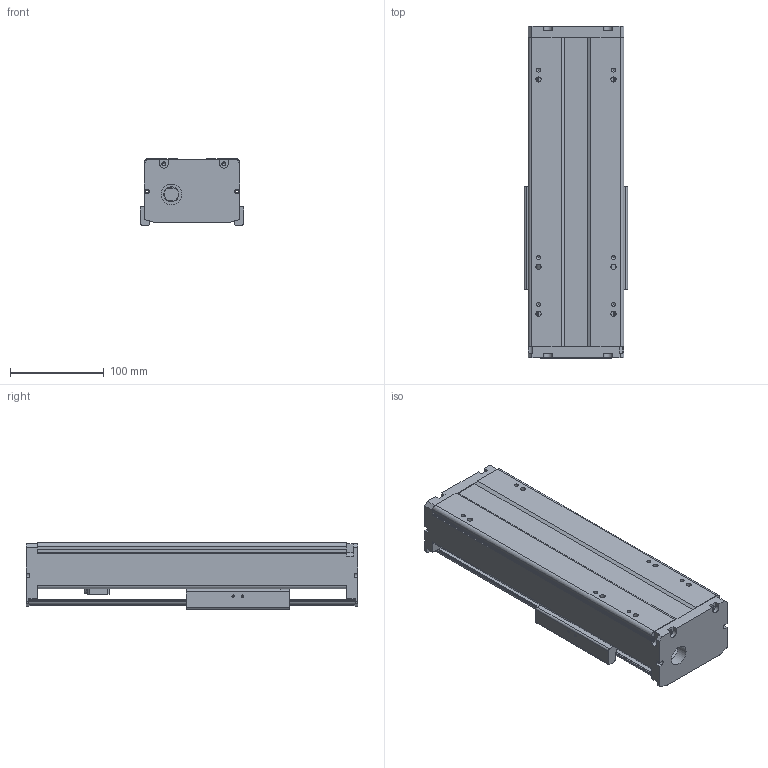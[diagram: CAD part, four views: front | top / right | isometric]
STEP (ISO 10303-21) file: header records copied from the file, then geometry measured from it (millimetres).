
FILE_DESCRIPTION(/* description */ (''),/* implementation_level */ '2;1');
FILE_NAME(/* name */ 'TKA100-100A1F0_asm1.stp',/* time_stamp */ '2017-02-20T14:55:14+08:00',/* author */ (''),/* organization */ (''),/* preprocessor_version */ 'ST-DEVELOPER v15',/* originating_system */ 'SIEMENS PLM Software NX 8.5',/* authorisation */ '');
FILE_SCHEMA (('AUTOMOTIVE_DESIGN { 1 0 10303 214 3 1 1 1 }'));
Length unit declared in the file: millimetre
Products named in the file (3): 200-02; 200-01; TKA100-100A1F0_asm1_stp
Assembly tree (2 placements, depth 2):
  TKA100-100A1F0_asm1_stp
    200-01
    200-02
Bounding box: 110 x 354 x 71 mm (x, y, z)
Volume: 981638.8 mm3; surface area: 309229.4 mm2
Topology: 2 solids, 8 shells, 665 faces, 1775 edges, 1158 vertices
Faces by surface type: cylinder 255, plane 253, cone 104, torus 27, bspline 26
Full cylindrical faces by diameter (mm): 2.5 x6, 2.6 x8, 3.3 x8, 3.4 x8, 3.8 x4, 4.2 x15, 4.3 x4, 4.5 x4, 5 x1, 5.5 x14, 6.6 x4, 8 x5, 9 x4, 10 x6, 11 x4, 12 x6, 12.05 x2, 15.3 x1, 15.4 x1, 16 x1, 17 x2, 18 x1, 22 x1, 24 x1, 28 x5, 30 x1
Entity records: 25311 total; most frequent: CARTESIAN_POINT 9748, DIRECTION 3175, ORIENTED_EDGE 3008, EDGE_CURVE 1504, AXIS2_PLACEMENT_3D 1261, VERTEX_POINT 1091, EDGE_LOOP 946, ADVANCED_FACE 665
